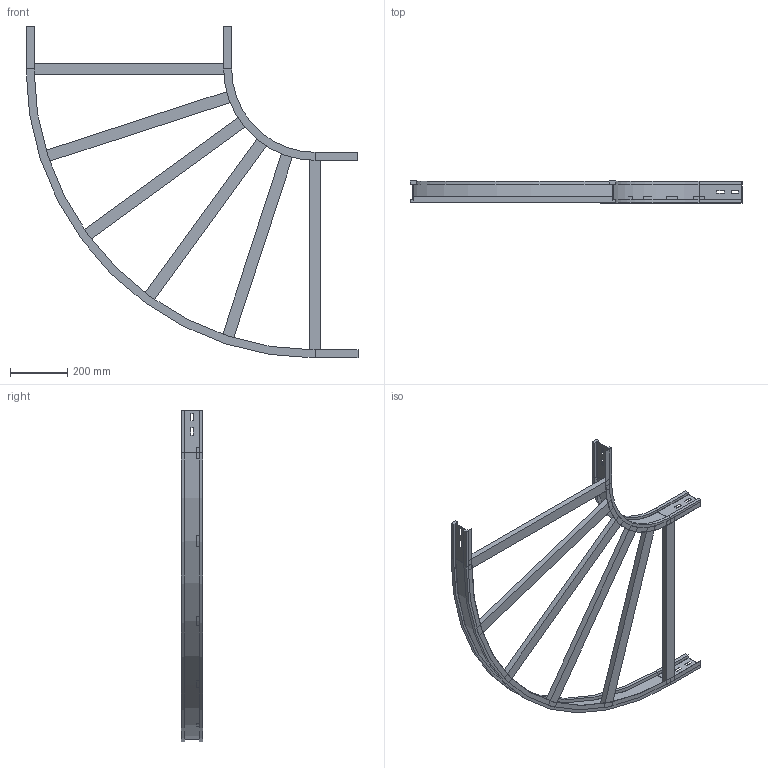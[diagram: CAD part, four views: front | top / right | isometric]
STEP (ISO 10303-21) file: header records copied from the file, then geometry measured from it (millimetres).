
FILE_DESCRIPTION (( 'STEP AP214' ), '1' );
FILE_NAME ('10S3C700.step', '2025-02-21T16:11:28', ( '' ), ( '' ), 'SwSTEP 2.0', 'SolidWorks 2023', '' );
FILE_SCHEMA (( 'AUTOMOTIVE_DESIGN' ));
Length unit declared in the file: millimetre
Products named in the file (4): 10S3C700; LONGH.ESTERNO 90°_H75_R300+700; LONGH.INTERNO 90°_H75_R300; TRAVERSINO_700
Assembly tree (8 placements, depth 2):
  10S3C700
    LONGH.INTERNO 90°_H75_R300
    LONGH.ESTERNO 90°_H75_R300+700
    TRAVERSINO_700  x6
Bounding box: 1159 x 75 x 1159 mm (x, y, z)
Volume: 4686582.9 mm3; surface area: 1167511.7 mm2
Topology: 8 solids, 8 shells, 144 faces, 336 edges, 208 vertices
Faces by surface type: plane 132, cylinder 12
Entity records: 3413 total; most frequent: CARTESIAN_POINT 569, ORIENTED_EDGE 552, DIRECTION 550, EDGE_CURVE 276, LINE 252, VECTOR 252, VERTEX_POINT 168, AXIS2_PLACEMENT_3D 149
